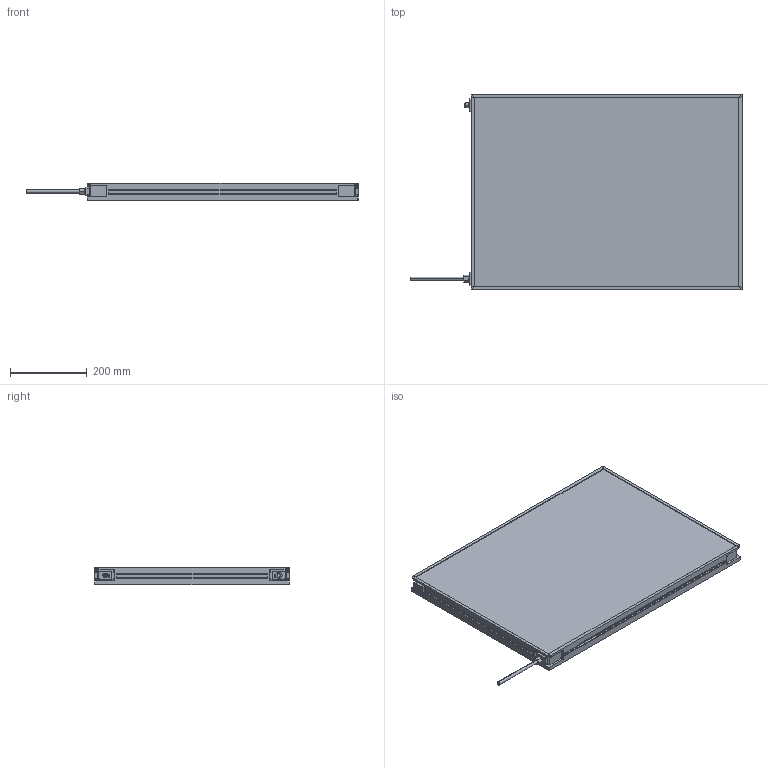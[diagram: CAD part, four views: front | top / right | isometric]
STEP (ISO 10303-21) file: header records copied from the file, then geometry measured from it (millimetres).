
FILE_DESCRIPTION (( 'STEP AP214' ), '1' );
FILE_NAME ('MBACK-xxxx-xxx-M1A2_CLIENT500x700.STEP', '2022-04-01T11:43:41', ( '' ), ( '' ), 'SwSTEP 2.0', 'SolidWorks 2020', '' );
FILE_SCHEMA (( 'AUTOMOTIVE_DESIGN' ));
Length unit declared in the file: millimetre
Products named in the file (1): MBACK-xxxx-xxx-M1A2_CLIENT500x700
Bounding box: 867.4 x 508 x 45.5 mm (x, y, z)
Volume: 14956948.9 mm3; surface area: 886712.8 mm2
Topology: 1 solids, 1 shells, 470 faces, 1210 edges, 804 vertices
Faces by surface type: plane 265, cylinder 117, bspline 80, cone 8
Entity records: 18046 total; most frequent: CARTESIAN_POINT 6837, ORIENTED_EDGE 2420, DIRECTION 2082, EDGE_CURVE 1210, VERTEX_POINT 804, VECTOR 800, LINE 800, AXIS2_PLACEMENT_3D 641
